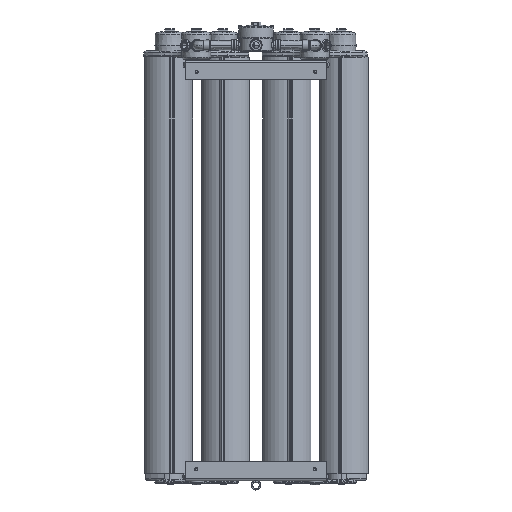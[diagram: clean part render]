
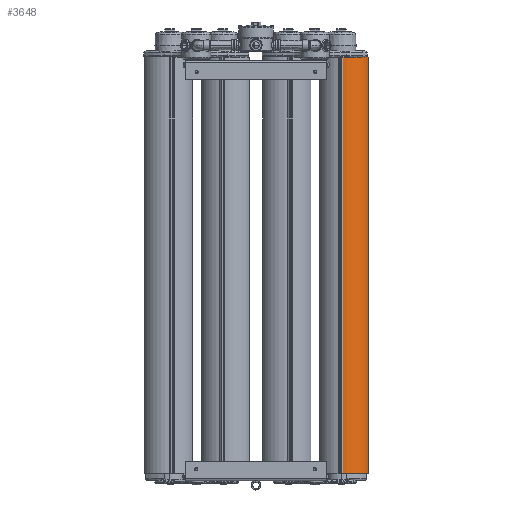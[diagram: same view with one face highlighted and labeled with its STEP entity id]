
A CAD part, front view. The second image highlights one B-rep face of the part: STEP entity #3648.
In plain terms, the highlighted cylindrical face has radius 76.103 mm (diameter 152.207 mm), a partial arc.
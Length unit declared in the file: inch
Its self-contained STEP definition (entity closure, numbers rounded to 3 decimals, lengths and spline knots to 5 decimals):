
#1844 = CARTESIAN_POINT ( 'NONE',  ( 0.04379, -1.11468, 47. ) ) ;
#2128 = VERTEX_POINT ( 'NONE', #36779 ) ;
#3648 = ADVANCED_FACE ( 'NONE', ( #5486 ), #35245, .T. ) ;
#3678 = EDGE_CURVE ( 'NONE', #20715, #17067, #28322, .T. ) ;
#4812 = DIRECTION ( 'NONE',  ( -1., 0., 0. ) ) ;
#5486 = FACE_OUTER_BOUND ( 'NONE', #31286, .T. ) ;
#6100 = LINE ( 'NONE', #15848, #36776 ) ;
#6618 = ORIENTED_EDGE ( 'NONE', *, *, #16977, .T. ) ;
#9307 = AXIS2_PLACEMENT_3D ( 'NONE', #1844, #22665, #4812 ) ;
#9720 = DIRECTION ( 'NONE',  ( 0., 0., 1. ) ) ;
#10199 = CARTESIAN_POINT ( 'NONE',  ( 0.21331, 1.87672, 0. ) ) ;
#11706 = CARTESIAN_POINT ( 'NONE',  ( 0.21331, 1.87672, 47. ) ) ;
#14148 = DIRECTION ( 'NONE',  ( 0., 0., 1. ) ) ;
#15848 = CARTESIAN_POINT ( 'NONE',  ( -2.62633, 0.24461, 47. ) ) ;
#15955 = CIRCLE ( 'NONE', #9307, 2.9962 ) ;
#16977 = EDGE_CURVE ( 'NONE', #34648, #2128, #6100, .T. ) ;
#17067 = VERTEX_POINT ( 'NONE', #10199 ) ;
#18815 = CARTESIAN_POINT ( 'NONE',  ( -2.62633, 0.24461, 0. ) ) ;
#19461 = CIRCLE ( 'NONE', #29050, 2.9962 ) ;
#19520 = DIRECTION ( 'NONE',  ( 0., 0., -1. ) ) ;
#20715 = VERTEX_POINT ( 'NONE', #11706 ) ;
#21478 = EDGE_CURVE ( 'NONE', #17067, #34648, #19461, .T. ) ;
#22248 = CARTESIAN_POINT ( 'NONE',  ( 0.21331, 1.87672, 47. ) ) ;
#22665 = DIRECTION ( 'NONE',  ( 0., 0., 1. ) ) ;
#24873 = DIRECTION ( 'NONE',  ( 0., 0., -1. ) ) ;
#24992 = ORIENTED_EDGE ( 'NONE', *, *, #3678, .T. ) ;
#25114 = CARTESIAN_POINT ( 'NONE',  ( 0.04379, -1.11468, 47. ) ) ;
#25406 = AXIS2_PLACEMENT_3D ( 'NONE', #25114, #24873, #28100 ) ;
#27404 = VECTOR ( 'NONE', #19520, 39.37008 ) ;
#28100 = DIRECTION ( 'NONE',  ( -1., 0., 0. ) ) ;
#28322 = LINE ( 'NONE', #22248, #27404 ) ;
#29050 = AXIS2_PLACEMENT_3D ( 'NONE', #31987, #14148, #34943 ) ;
#31286 = EDGE_LOOP ( 'NONE', ( #38353, #24992, #35308, #6618 ) ) ;
#31987 = CARTESIAN_POINT ( 'NONE',  ( 0.04379, -1.11468, 0. ) ) ;
#32382 = EDGE_CURVE ( 'NONE', #20715, #2128, #15955, .T. ) ;
#34648 = VERTEX_POINT ( 'NONE', #18815 ) ;
#34943 = DIRECTION ( 'NONE',  ( -1., 0., 0. ) ) ;
#35245 = CYLINDRICAL_SURFACE ( 'NONE', #25406, 2.9962 ) ;
#35308 = ORIENTED_EDGE ( 'NONE', *, *, #21478, .T. ) ;
#36776 = VECTOR ( 'NONE', #9720, 39.37008 ) ;
#36779 = CARTESIAN_POINT ( 'NONE',  ( -2.62633, 0.24461, 47. ) ) ;
#38353 = ORIENTED_EDGE ( 'NONE', *, *, #32382, .F. ) ;
